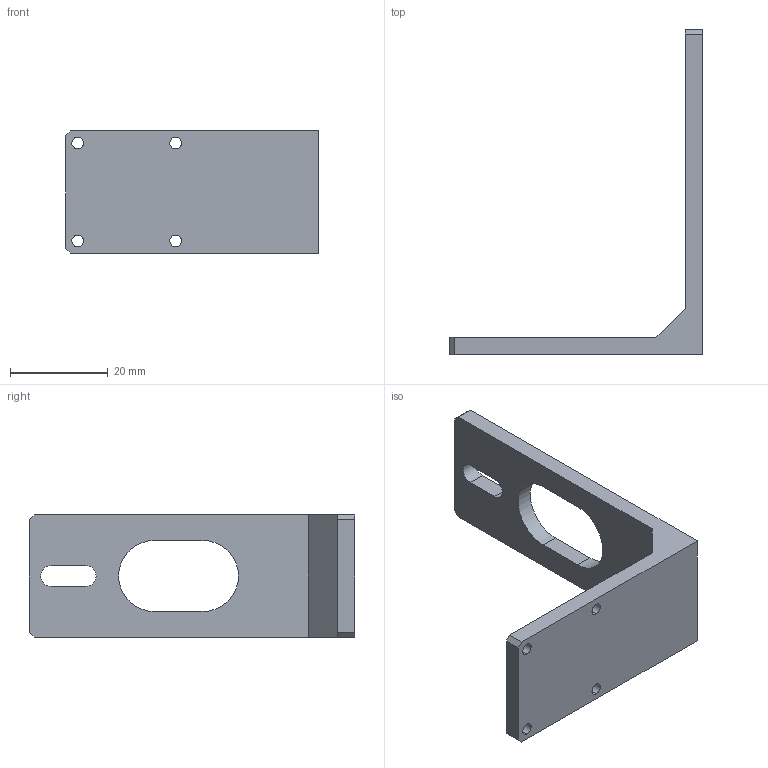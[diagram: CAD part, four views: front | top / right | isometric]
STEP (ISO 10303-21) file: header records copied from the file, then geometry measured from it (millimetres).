
FILE_DESCRIPTION (( 'STEP AP214' ), '1' );
FILE_NAME ('蟀諉璃.STEP', '2025-08-06T07:28:23', ( '' ), ( '' ), 'SwSTEP 2.0', 'SolidWorks 2024', '' );
FILE_SCHEMA (( 'AUTOMOTIVE_DESIGN' ));
Length unit declared in the file: millimetre
Products named in the file (1): 连接件
Bounding box: 51.68 x 66.5 x 25 mm (x, y, z)
Volume: 9172.5 mm3; surface area: 6333.3 mm2
Topology: 1 solids, 1 shells, 31 faces, 87 edges, 58 vertices
Faces by surface type: plane 17, cylinder 14
Entity records: 1056 total; most frequent: DIRECTION 179, CARTESIAN_POINT 177, ORIENTED_EDGE 174, EDGE_CURVE 87, AXIS2_PLACEMENT_3D 60, VECTOR 59, LINE 59, VERTEX_POINT 58
